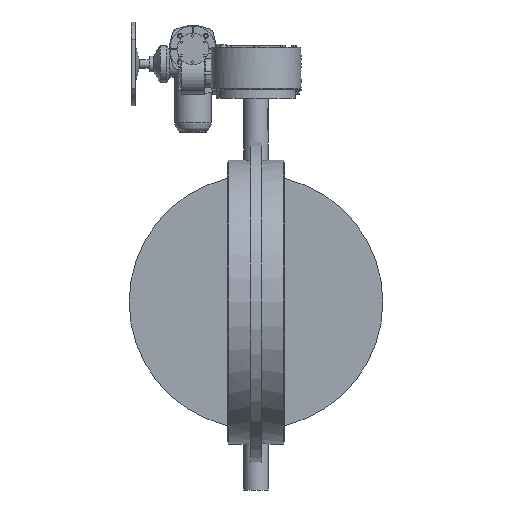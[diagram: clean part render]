
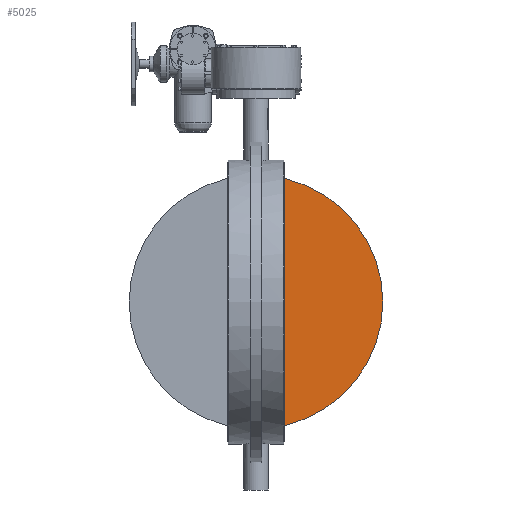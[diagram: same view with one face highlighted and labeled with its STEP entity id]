
A CAD part, front view. The second image highlights one B-rep face of the part: STEP entity #5025.
In plain terms, the highlighted planar face has unit normal (0, -1, 0).
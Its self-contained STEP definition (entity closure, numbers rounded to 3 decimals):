
#5025=ADVANCED_FACE('',(#9529),#9531,.T.);
#9529=FACE_BOUND('',#9530,.T.);
#9530=EDGE_LOOP('',(#12210,#12211));
#9531=PLANE('',#9532);
#9532=AXIS2_PLACEMENT_3D('',#9533,#9534,#9535);
#9533=CARTESIAN_POINT('',(0.,-10.,0.));
#9534=DIRECTION('',(0.,-1.,0.));
#9535=DIRECTION('',(0.,0.,1.));
#12210=ORIENTED_EDGE('',*,*,#13540,.T.);
#12211=ORIENTED_EDGE('',*,*,#13548,.T.);
#13540=EDGE_CURVE('',#15804,#15801,#15805,.T.);
#13548=EDGE_CURVE('',#15801,#15804,#15818,.T.);
#15801=VERTEX_POINT('',#24242);
#15804=VERTEX_POINT('',#24284);
#15805=LINE('',#24285,#24286);
#15818=CIRCLE('',#24426,482.5);
#24242=CARTESIAN_POINT('',(36.142,-10.,-481.144));
#24284=CARTESIAN_POINT('',(36.142,-10.,481.144));
#24285=CARTESIAN_POINT('',(36.142,-10.,481.144));
#24286=VECTOR('',#24287,1.);
#24287=DIRECTION('',(0.,0.,-1.));
#24426=AXIS2_PLACEMENT_3D('',#24427,#24428,#24429);
#24427=CARTESIAN_POINT('',(0.,-10.,0.));
#24428=DIRECTION('',(0.,-1.,0.));
#24429=DIRECTION('',(0.075,0.,-0.997));
